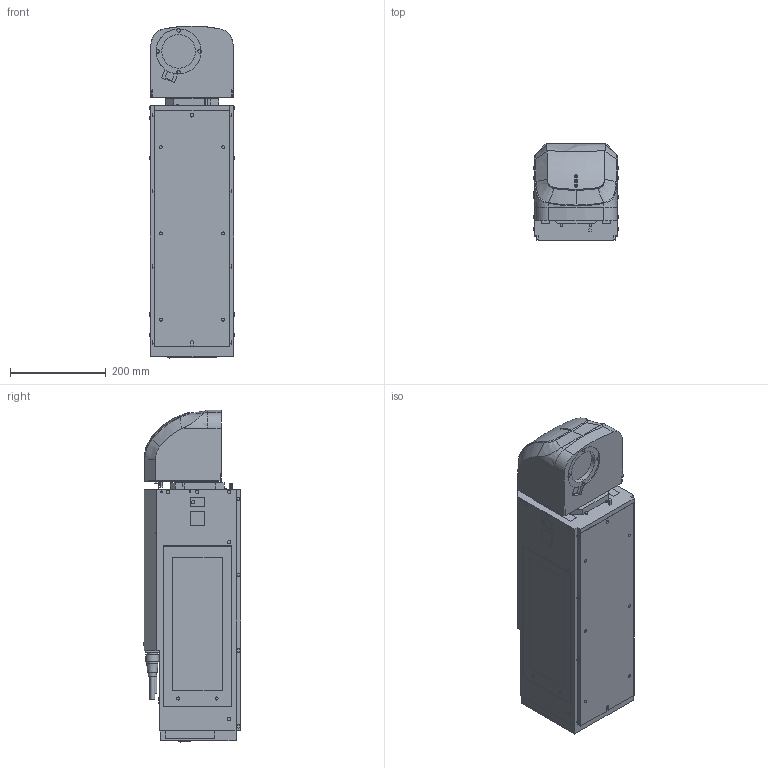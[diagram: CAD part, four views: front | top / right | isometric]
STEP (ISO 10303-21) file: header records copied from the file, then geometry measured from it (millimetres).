
FILE_DESCRIPTION (( 'STEP AP203' ), '1' );
FILE_NAME ('lp-rh300sh_step.STEP', '2023-07-28T06:36:07', ( '' ), ( '' ), 'SwSTEP 2.0', 'SolidWorks 2022', '' );
FILE_SCHEMA (( 'CONFIG_CONTROL_DESIGN' ));
Length unit declared in the file: millimetre
Products named in the file (1): lp-rh300sh_step
Bounding box: 178.8 x 203.9 x 692.98 mm (x, y, z)
Volume: 20589422.4 mm3; surface area: 598235.5 mm2
Topology: 1 solids, 5 shells, 548 faces, 1292 edges, 841 vertices
Faces by surface type: plane 313, cylinder 166, bspline 61, cone 6, torus 2
Entity records: 25591 total; most frequent: CARTESIAN_POINT 13094, ORIENTED_EDGE 2584, DIRECTION 2431, EDGE_CURVE 1292, VERTEX_POINT 841, VECTOR 825, LINE 825, AXIS2_PLACEMENT_3D 803
